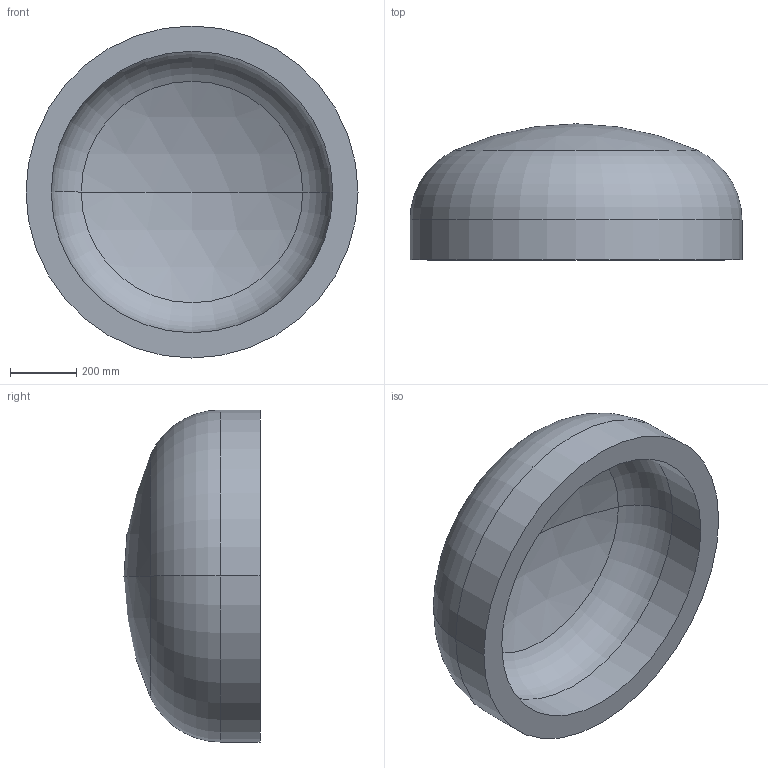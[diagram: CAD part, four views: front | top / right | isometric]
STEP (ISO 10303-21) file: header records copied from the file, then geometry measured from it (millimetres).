
FILE_DESCRIPTION (( 'STEP AP203' ), '1' );
FILE_NAME ('DIN 28013 Korbbogenform_-_Boden DIN 28013 - 1000 x 120 - I - s=76.step', '2016-07-01T08:54:04', ( '' ), ( '' ), 'SwSTEP 2.0', 'SolidWorks 2013', '' );
FILE_SCHEMA (( 'CONFIG_CONTROL_DESIGN' ));
Length unit declared in the file: millimetre
Products named in the file (1): DIN 28013 Korbbogenform_-_Boden DIN 28013 - 1000 x 120 - I - s=76
Bounding box: 1000 x 409.77 x 1000 mm (x, y, z)
Volume: 101702568.1 mm3; surface area: 2909095.3 mm2
Topology: 1 solids, 1 shells, 13 faces, 24 edges, 14 vertices
Faces by surface type: torus 4, cylinder 4, sphere 4, plane 1
Entity records: 407 total; most frequent: DIRECTION 72, CARTESIAN_POINT 52, ORIENTED_EDGE 48, AXIS2_PLACEMENT_3D 34, EDGE_CURVE 24, CIRCLE 20, EDGE_LOOP 14, VERTEX_POINT 14
